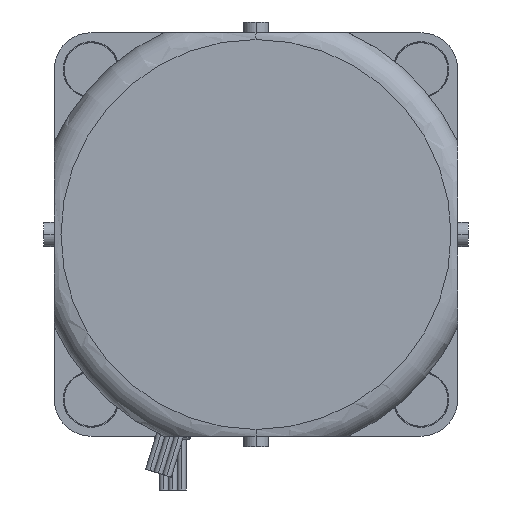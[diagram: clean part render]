
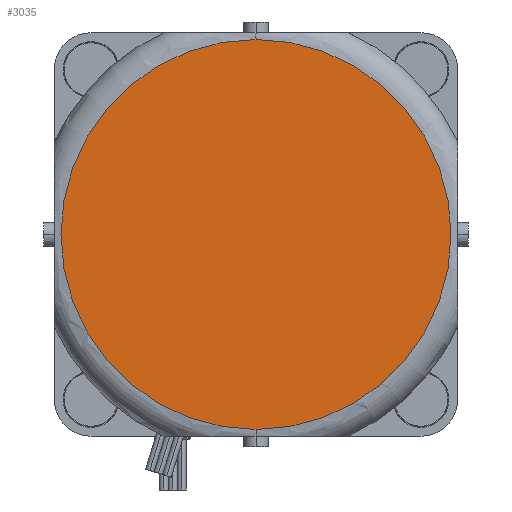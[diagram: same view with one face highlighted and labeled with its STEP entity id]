
A CAD part, left-side view. The second image highlights one B-rep face of the part: STEP entity #3035.
In plain terms, the highlighted planar face has unit normal (-1, 0, 0).
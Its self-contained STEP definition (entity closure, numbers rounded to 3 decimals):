
#3015=CARTESIAN_POINT('POINT481307',(-247.,0.,
   25.5));
#3016=VERTEX_POINT('VERTEX481307',#3015);
#3017=CARTESIAN_POINT('POINT481308',(-247.,0.,
   -61.5));
#3018=VERTEX_POINT('VERTEX481308',#3017);
#3019=CARTESIAN_POINT('POS782897',(-247.,0.,-18.));
#3020=DIRECTION('DIR1152173',(-1.,0.,0.));
#3021=DIRECTION('DIR1152174',(0.,0.,-1.));
#3022=AXIS2_PLACEMENT_3D('AXIS369277',#3019,#3020,#3021);
#3023=CIRCLE('ELLIPSE154884',#3022,43.5);
#3024=EDGE_CURVE('EDGE741543',#3016,#3018,#3023,.T.);
#3025=ORIENTED_EDGE('COEDGE1483773',*,*,#3024,.T.);
#3026=EDGE_CURVE('EDGE741544',#3018,#3016,#3023,.T.);
#3027=ORIENTED_EDGE('COEDGE1483774',*,*,#3026,.T.);
#3028=EDGE_LOOP('NONE',(#3025,#3027));
#3029=FACE_BOUND('LOOP1',#3028,.T.);
#3030=CARTESIAN_POINT('POS782898',(-247.,0.,
   4.25));
#3031=DIRECTION('DIR1152175',(-1.,0.,0.));
#3032=DIRECTION('DIR1152176',(0.,1.,0.));
#3033=AXIS2_PLACEMENT_3D('AXIS369278',#3030,#3031,#3032);
#3034=PLANE('PLANE143376',#3033);
#3035=ADVANCED_FACE('FACE296137',(#3029),#3034,.T.);
